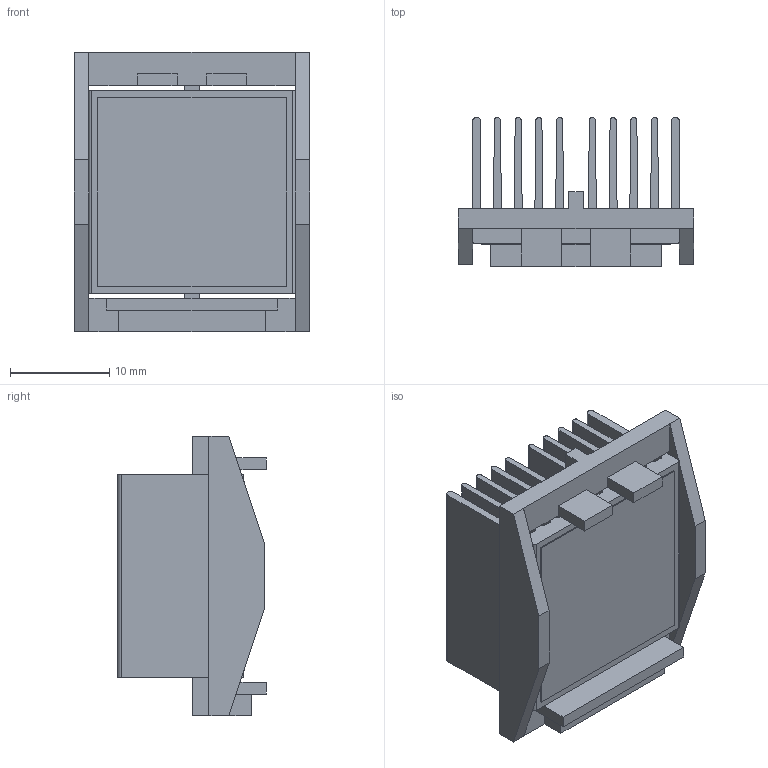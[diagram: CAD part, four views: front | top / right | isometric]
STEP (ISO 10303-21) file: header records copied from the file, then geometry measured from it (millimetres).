
FILE_DESCRIPTION (( 'STEP AP214' ), '1' );
FILE_NAME ('INL21001-13-1.7Y.STEP', '2023-02-21T16:17:59', ( '' ), ( '' ), 'SwSTEP 2.0', 'SolidWorks 2020', '' );
FILE_SCHEMA (( 'AUTOMOTIVE_DESIGN' ));
Length unit declared in the file: millimetre
Products named in the file (1): INL21001-13-1.7Y
Bounding box: 23.7 x 15 x 28.1 mm (x, y, z)
Volume: 3311.4 mm3; surface area: 7732.9 mm2
Topology: 3 solids, 3 shells, 116 faces, 332 edges, 220 vertices
Faces by surface type: plane 86, cylinder 30
Entity records: 5096 total; most frequent: CARTESIAN_POINT 669, ORIENTED_EDGE 664, DIRECTION 626, EDGE_CURVE 332, LINE 272, VECTOR 272, VERTEX_POINT 220, AXIS2_PLACEMENT_3D 177
